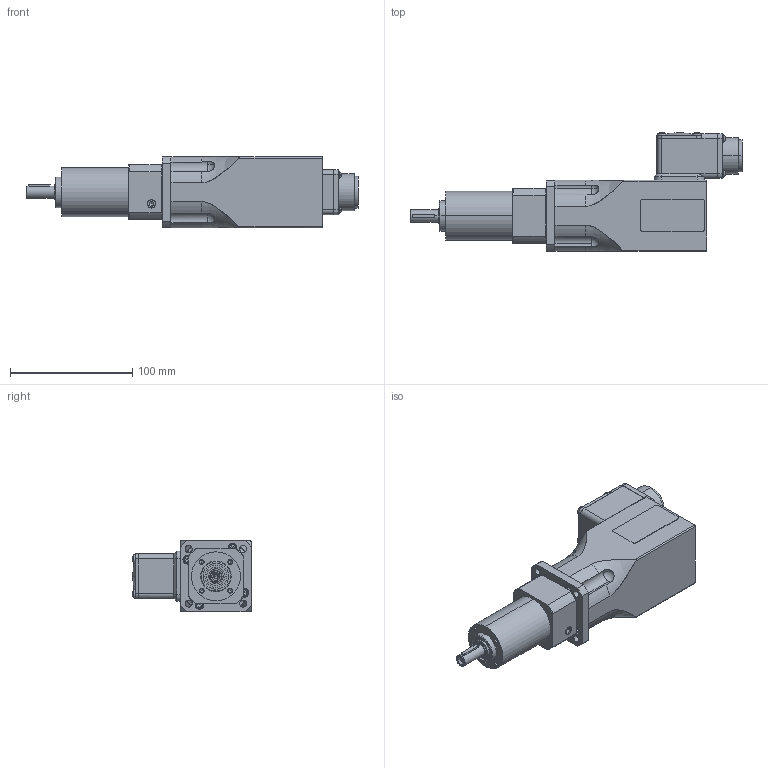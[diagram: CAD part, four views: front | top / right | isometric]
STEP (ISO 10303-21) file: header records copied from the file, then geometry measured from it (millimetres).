
FILE_DESCRIPTION(('STEP AP214'),'1');
FILE_NAME('Z:/TurboCAD/Motor-Getriebe-Kombinationen/EGK/tmp0.STP','2015-03-19T12:41:28',(' '),(' '),'Spatial InterOp 3D',' ',' ');
FILE_SCHEMA(('automotive_design'));
Length unit declared in the file: millimetre
Products named in the file (368): NONE; PD040-2
Bounding box: 271.15 x 97.05 x 58.5 mm (x, y, z)
Volume: 108479.4 mm3; surface area: 79782 mm2
Topology: 1 solids, 380 shells, 565 faces, 2304 edges, 2121 vertices
Faces by surface type: plane 231, cylinder 157, bspline 75, cone 70, sphere 18, torus 14
Entity records: 40788 total; most frequent: CARTESIAN_POINT 8734, DIRECTION 4531, ORIENTED_EDGE 2685, EDGE_CURVE 2274, VERTEX_POINT 2121, AXIS2_PLACEMENT_3D 1686, LINE 1159, VECTOR 1159
